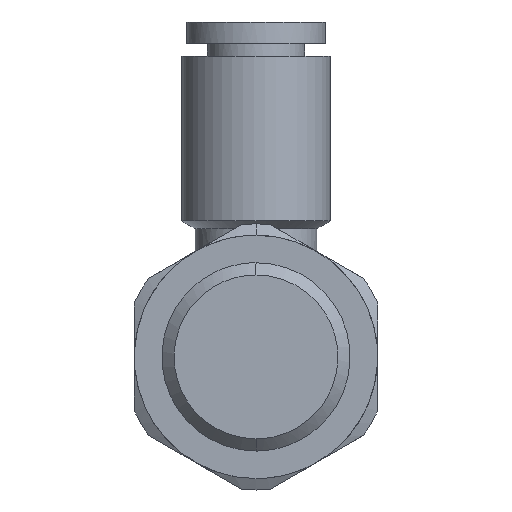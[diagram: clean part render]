
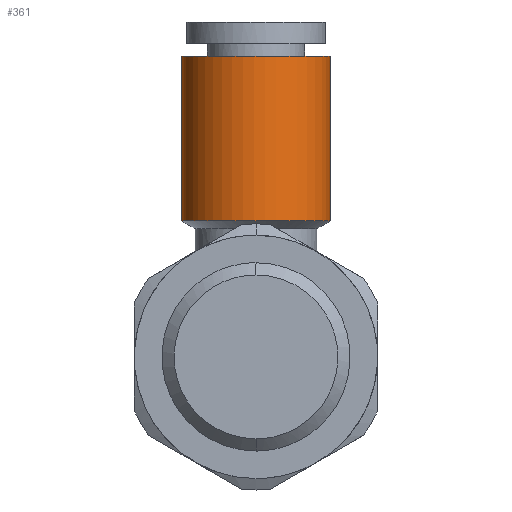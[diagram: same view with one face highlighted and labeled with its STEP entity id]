
A CAD part, front view. The second image highlights one B-rep face of the part: STEP entity #361.
In plain terms, the highlighted free-form (B-spline) face has degree [1, 3] with [2, 4] control points.
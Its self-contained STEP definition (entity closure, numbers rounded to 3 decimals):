
#343 = VERTEX_POINT ( 'NONE', #1375 ) ;
#361 = ADVANCED_FACE ( 'NONE', ( #674 ), #1165, .T. ) ;
#374 = CARTESIAN_POINT ( 'NONE',  ( 5.2, 5.7, 9.5 ) ) ;
#654 = CARTESIAN_POINT ( 'NONE',  ( -5.2, 16.1, 21. ) ) ;
#674 = FACE_OUTER_BOUND ( 'NONE', #2385, .T. ) ;
#705 = CARTESIAN_POINT ( 'NONE',  ( -5.2, 16.1, 21. ) ) ;
#722 =( BOUNDED_CURVE ( )  B_SPLINE_CURVE ( 3, ( #1104, #374, #2620, #2425 ),
 .UNSPECIFIED., .F., .T. ) 
 B_SPLINE_CURVE_WITH_KNOTS ( ( 4, 4 ),
 ( 0., 1. ),
 .UNSPECIFIED. ) 
 CURVE ( )  GEOMETRIC_REPRESENTATION_ITEM ( )  RATIONAL_B_SPLINE_CURVE ( ( 1., 0.333, 0.333, 1. ) ) 
 REPRESENTATION_ITEM ( '' )  );
#763 =( BOUNDED_CURVE ( )  B_SPLINE_CURVE ( 3, ( #1683, #2173, #1037, #2586 ),
 .UNSPECIFIED., .F., .T. ) 
 B_SPLINE_CURVE_WITH_KNOTS ( ( 4, 4 ),
 ( 0.5, 1. ),
 .UNSPECIFIED. ) 
 CURVE ( )  GEOMETRIC_REPRESENTATION_ITEM ( )  RATIONAL_B_SPLINE_CURVE ( ( 1., 0.333, 0.333, 1. ) ) 
 REPRESENTATION_ITEM ( '' )  );
#849 = ORIENTED_EDGE ( 'NONE', *, *, #1619, .T. ) ;
#958 = ORIENTED_EDGE ( 'NONE', *, *, #2056, .T. ) ;
#972 = CARTESIAN_POINT ( 'NONE',  ( -5.2, 5.7, 9.5 ) ) ;
#997 = EDGE_CURVE ( 'NONE', #2256, #343, #722, .T. ) ;
#1037 = CARTESIAN_POINT ( 'NONE',  ( -5.2, 5.7, 21. ) ) ;
#1104 = CARTESIAN_POINT ( 'NONE',  ( 5.2, 16.1, 9.5 ) ) ;
#1161 = ORIENTED_EDGE ( 'NONE', *, *, #997, .F. ) ;
#1165 =( BOUNDED_SURFACE ( )  B_SPLINE_SURFACE ( 1, 3, ( 
 ( #1597, #1846, #972, #2040 ),
 ( #2054, #2067, #1818, #705 ) ),
 .UNSPECIFIED., .F., .F., .F. ) 
 B_SPLINE_SURFACE_WITH_KNOTS ( ( 2, 2 ),
 ( 4, 4 ),
 ( 0., 1. ),
 ( 0., 1. ),
 .UNSPECIFIED. ) 
 GEOMETRIC_REPRESENTATION_ITEM ( )  RATIONAL_B_SPLINE_SURFACE ( (
 ( 1., 0.333, 0.333, 1.),
 ( 1., 0.333, 0.333, 1.) ) ) 
 REPRESENTATION_ITEM ( '' )  SURFACE ( )  );
#1257 = CARTESIAN_POINT ( 'NONE',  ( -5.2, 16.1, 21. ) ) ;
#1375 = CARTESIAN_POINT ( 'NONE',  ( -5.2, 16.1, 9.5 ) ) ;
#1376 = ORIENTED_EDGE ( 'NONE', *, *, #2085, .F. ) ;
#1597 = CARTESIAN_POINT ( 'NONE',  ( 5.2, 16.1, 9.5 ) ) ;
#1598 = B_SPLINE_CURVE_WITH_KNOTS ( 'NONE', 1,
 ( #1919, #1257 ),
 .UNSPECIFIED., .F., .F.,
 ( 2, 2 ),
 ( 0., 1. ),
 .UNSPECIFIED. ) ;
#1619 = EDGE_CURVE ( 'NONE', #2256, #1950, #2899, .T. ) ;
#1683 = CARTESIAN_POINT ( 'NONE',  ( 5.2, 16.1, 21. ) ) ;
#1818 = CARTESIAN_POINT ( 'NONE',  ( -5.2, 5.7, 21. ) ) ;
#1828 = VERTEX_POINT ( 'NONE', #654 ) ;
#1843 = CARTESIAN_POINT ( 'NONE',  ( 5.2, 16.1, 21. ) ) ;
#1846 = CARTESIAN_POINT ( 'NONE',  ( 5.2, 5.7, 9.5 ) ) ;
#1858 = CARTESIAN_POINT ( 'NONE',  ( 5.2, 16.1, 21. ) ) ;
#1919 = CARTESIAN_POINT ( 'NONE',  ( -5.2, 16.1, 9.5 ) ) ;
#1950 = VERTEX_POINT ( 'NONE', #1858 ) ;
#2040 = CARTESIAN_POINT ( 'NONE',  ( -5.2, 16.1, 9.5 ) ) ;
#2054 = CARTESIAN_POINT ( 'NONE',  ( 5.2, 16.1, 21. ) ) ;
#2056 = EDGE_CURVE ( 'NONE', #1950, #1828, #763, .T. ) ;
#2067 = CARTESIAN_POINT ( 'NONE',  ( 5.2, 5.7, 21. ) ) ;
#2085 = EDGE_CURVE ( 'NONE', #343, #1828, #1598, .T. ) ;
#2173 = CARTESIAN_POINT ( 'NONE',  ( 5.2, 5.7, 21. ) ) ;
#2256 = VERTEX_POINT ( 'NONE', #2737 ) ;
#2385 = EDGE_LOOP ( 'NONE', ( #1161, #849, #958, #1376 ) ) ;
#2425 = CARTESIAN_POINT ( 'NONE',  ( -5.2, 16.1, 9.5 ) ) ;
#2586 = CARTESIAN_POINT ( 'NONE',  ( -5.2, 16.1, 21. ) ) ;
#2620 = CARTESIAN_POINT ( 'NONE',  ( -5.2, 5.7, 9.5 ) ) ;
#2737 = CARTESIAN_POINT ( 'NONE',  ( 5.2, 16.1, 9.5 ) ) ;
#2773 = CARTESIAN_POINT ( 'NONE',  ( 5.2, 16.1, 9.5 ) ) ;
#2899 = B_SPLINE_CURVE_WITH_KNOTS ( 'NONE', 1,
 ( #2773, #1843 ),
 .UNSPECIFIED., .F., .F.,
 ( 2, 2 ),
 ( 0., 1. ),
 .UNSPECIFIED. ) ;
